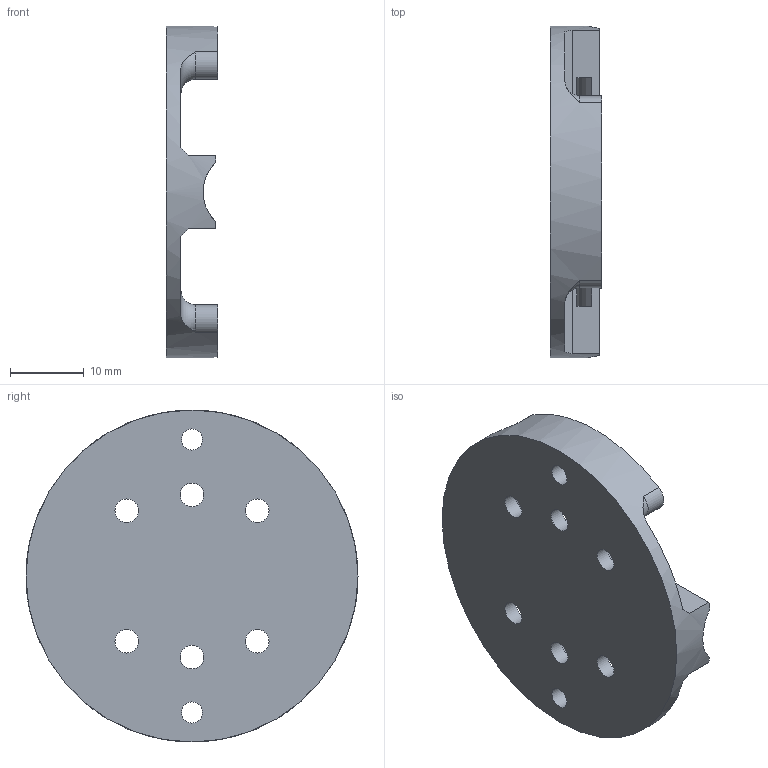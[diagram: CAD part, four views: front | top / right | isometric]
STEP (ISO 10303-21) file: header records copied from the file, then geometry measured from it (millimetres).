
FILE_DESCRIPTION(/* description */ (''),/* implementation_level */ '2;1');
FILE_NAME(/* name */ '',/* time_stamp */ '2026-01-25T17:06:49+08:00',/* author */ (''),/* organization */ (''),/* preprocessor_version */ 'ST-DEVELOPER v20.1',/* originating_system */ 'Autodesk Translation Framework v14.24.0.0',/* authorisation */ '');
FILE_SCHEMA (('AUTOMOTIVE_DESIGN { 1 0 10303 214 3 1 1 }'));
Length unit declared in the file: millimetre
Products named in the file (1): 激光笔支架
Bounding box: 7 x 45 x 45 mm (x, y, z)
Volume: 6036 mm3; surface area: 4966.6 mm2
Topology: 1 solids, 1 shells, 45 faces, 125 edges, 82 vertices
Faces by surface type: cylinder 22, plane 19, torus 4
Full cylindrical faces by diameter (mm): 2.85 x2, 3.2 x6, 45 x1
Entity records: 1599 total; most frequent: CARTESIAN_POINT 316, DIRECTION 269, ORIENTED_EDGE 250, EDGE_CURVE 125, AXIS2_PLACEMENT_3D 105, VERTEX_POINT 82, EDGE_LOOP 67, LINE 59
